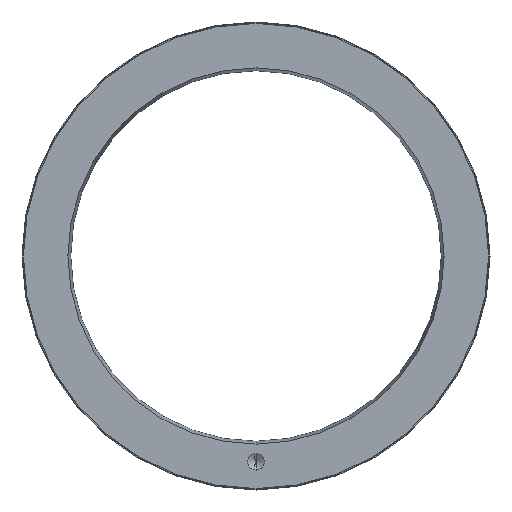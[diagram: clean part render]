
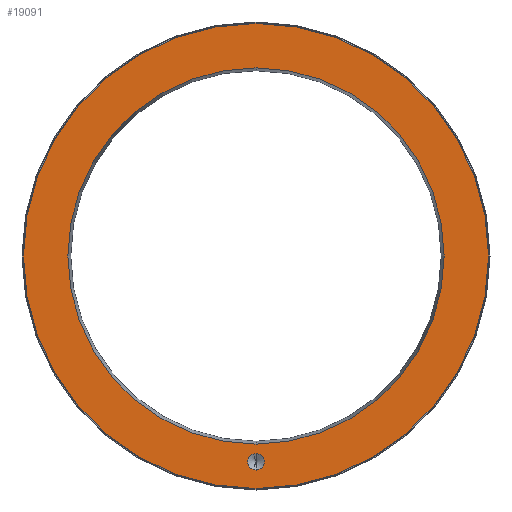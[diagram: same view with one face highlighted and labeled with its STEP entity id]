
A CAD part, front view. The second image highlights one B-rep face of the part: STEP entity #19091.
In plain terms, the highlighted planar face has unit normal (0, -1, 0).
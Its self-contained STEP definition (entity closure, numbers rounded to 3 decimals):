
#240 = DIRECTION ( 'NONE',  ( 0., 0., -1. ) ) ;
#805 = ORIENTED_EDGE ( 'NONE', *, *, #8986, .F. ) ;
#993 = CARTESIAN_POINT ( 'NONE',  ( 0., 0., -28.25 ) ) ;
#1621 = CIRCLE ( 'NONE', #4826, 1. ) ;
#1627 = EDGE_CURVE ( 'NONE', #14100, #19382, #7008, .T. ) ;
#1785 = DIRECTION ( 'NONE',  ( 0., 0., -1. ) ) ;
#2080 = DIRECTION ( 'NONE',  ( 0., 0., -1. ) ) ;
#2460 = EDGE_LOOP ( 'NONE', ( #805, #8496 ) ) ;
#3357 = VERTEX_POINT ( 'NONE', #7607 ) ;
#3523 = AXIS2_PLACEMENT_3D ( 'NONE', #5076, #10859, #240 ) ;
#3748 = VERTEX_POINT ( 'NONE', #7023 ) ;
#4094 = DIRECTION ( 'NONE',  ( 0., 0., -1. ) ) ;
#4383 = VERTEX_POINT ( 'NONE', #6800 ) ;
#4826 = AXIS2_PLACEMENT_3D ( 'NONE', #9463, #15586, #1785 ) ;
#4828 = FACE_OUTER_BOUND ( 'NONE', #5629, .T. ) ;
#4853 = CARTESIAN_POINT ( 'NONE',  ( 0., 0., 0. ) ) ;
#4913 = CARTESIAN_POINT ( 'NONE',  ( 0., 0., -25. ) ) ;
#5076 = CARTESIAN_POINT ( 'NONE',  ( 0., 0., 0. ) ) ;
#5618 = CARTESIAN_POINT ( 'NONE',  ( 0., 0., 0. ) ) ;
#5619 = ORIENTED_EDGE ( 'NONE', *, *, #1627, .T. ) ;
#5629 = EDGE_LOOP ( 'NONE', ( #19453, #5619 ) ) ;
#5995 = CARTESIAN_POINT ( 'NONE',  ( 0., 0., -22.853 ) ) ;
#6336 = PLANE ( 'NONE',  #9815 ) ;
#6749 = CIRCLE ( 'NONE', #18022, 1. ) ;
#6800 = CARTESIAN_POINT ( 'NONE',  ( 0., 0., -24. ) ) ;
#6923 = AXIS2_PLACEMENT_3D ( 'NONE', #4853, #12512, #10921 ) ;
#7008 = CIRCLE ( 'NONE', #9588, 28.25 ) ;
#7023 = CARTESIAN_POINT ( 'NONE',  ( 0., 0., -26. ) ) ;
#7348 = CIRCLE ( 'NONE', #12838, 22.853 ) ;
#7607 = CARTESIAN_POINT ( 'NONE',  ( 0., 0., 22.853 ) ) ;
#7859 = CARTESIAN_POINT ( 'NONE',  ( 28.45, 0., 0. ) ) ;
#8253 = DIRECTION ( 'NONE',  ( 0., 0., -1. ) ) ;
#8496 = ORIENTED_EDGE ( 'NONE', *, *, #11019, .F. ) ;
#8986 = EDGE_CURVE ( 'NONE', #18272, #3357, #18992, .T. ) ;
#9463 = CARTESIAN_POINT ( 'NONE',  ( 0., 0., -25. ) ) ;
#9504 = CIRCLE ( 'NONE', #6923, 28.25 ) ;
#9588 = AXIS2_PLACEMENT_3D ( 'NONE', #9671, #17410, #8253 ) ;
#9648 = EDGE_CURVE ( 'NONE', #4383, #3748, #6749, .T. ) ;
#9671 = CARTESIAN_POINT ( 'NONE',  ( 0., 0., 0. ) ) ;
#9679 = DIRECTION ( 'NONE',  ( 0., 0., -1. ) ) ;
#9727 = EDGE_CURVE ( 'NONE', #3748, #4383, #1621, .T. ) ;
#9815 = AXIS2_PLACEMENT_3D ( 'NONE', #7859, #16928, #9679 ) ;
#10472 = DIRECTION ( 'NONE',  ( 0., -1., 0. ) ) ;
#10552 = ORIENTED_EDGE ( 'NONE', *, *, #9648, .F. ) ;
#10859 = DIRECTION ( 'NONE',  ( 0., -1., 0. ) ) ;
#10921 = DIRECTION ( 'NONE',  ( 0., 0., -1. ) ) ;
#11019 = EDGE_CURVE ( 'NONE', #3357, #18272, #7348, .T. ) ;
#11811 = ORIENTED_EDGE ( 'NONE', *, *, #9727, .F. ) ;
#12303 = FACE_BOUND ( 'NONE', #12312, .T. ) ;
#12312 = EDGE_LOOP ( 'NONE', ( #11811, #10552 ) ) ;
#12512 = DIRECTION ( 'NONE',  ( 0., -1., 0. ) ) ;
#12838 = AXIS2_PLACEMENT_3D ( 'NONE', #5618, #10472, #4094 ) ;
#14100 = VERTEX_POINT ( 'NONE', #14559 ) ;
#14559 = CARTESIAN_POINT ( 'NONE',  ( 0., 0., 28.25 ) ) ;
#15586 = DIRECTION ( 'NONE',  ( 0., -1., 0. ) ) ;
#16726 = EDGE_CURVE ( 'NONE', #19382, #14100, #9504, .T. ) ;
#16928 = DIRECTION ( 'NONE',  ( 0., -1., 0. ) ) ;
#17410 = DIRECTION ( 'NONE',  ( 0., -1., 0. ) ) ;
#18022 = AXIS2_PLACEMENT_3D ( 'NONE', #4913, #18819, #2080 ) ;
#18272 = VERTEX_POINT ( 'NONE', #5995 ) ;
#18636 = FACE_BOUND ( 'NONE', #2460, .T. ) ;
#18819 = DIRECTION ( 'NONE',  ( 0., -1., 0. ) ) ;
#18992 = CIRCLE ( 'NONE', #3523, 22.853 ) ;
#19091 = ADVANCED_FACE ( 'NONE', ( #18636, #12303, #4828 ), #6336, .T. ) ;
#19382 = VERTEX_POINT ( 'NONE', #993 ) ;
#19453 = ORIENTED_EDGE ( 'NONE', *, *, #16726, .T. ) ;
